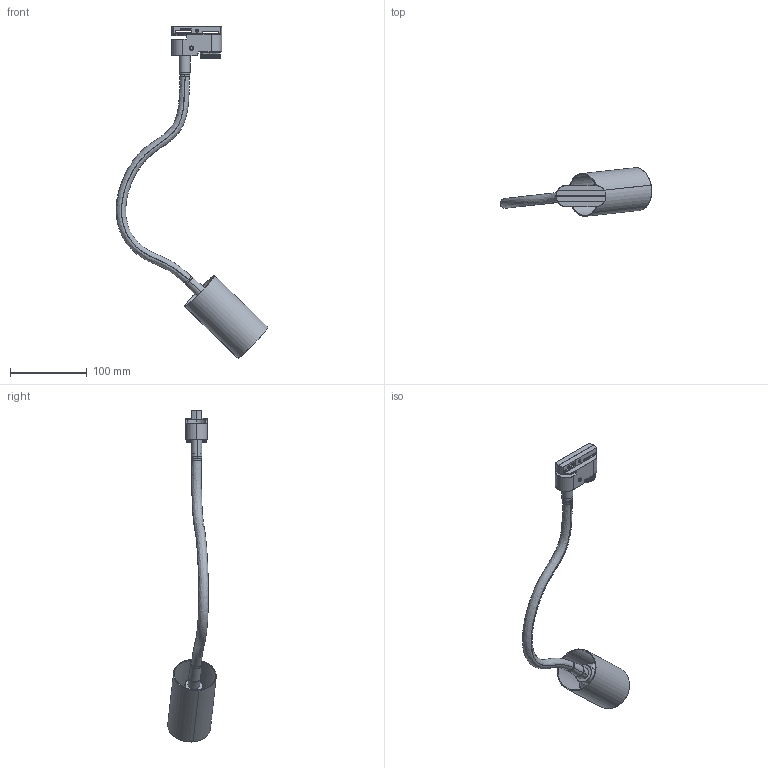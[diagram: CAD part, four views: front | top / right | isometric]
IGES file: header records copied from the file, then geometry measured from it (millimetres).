
Start section: SolidWorks IGES file using analytic representation for surfaces
Global section: file name: F:\GABRYSIA\MODELE 3D\PROFILE-EYE-FLEX-9331-9332-WWW\PROFILE-EYE-FLEX-9331-9332.IGS; native system: SolidWorks 2017; preprocessor: SolidWorks 2017; author: Togambi; date: 210303.100936; units: millimetre
Bounding box: 197.51 x 63.43 x 432.25 mm (x, y, z)
Surface area: 98522 mm2 (no closed solid volume)
Topology: 0 solids, 0 shells, 917 faces, 7875 edges, 7859 vertices
Faces by surface type: bspline 620, revolution 297
